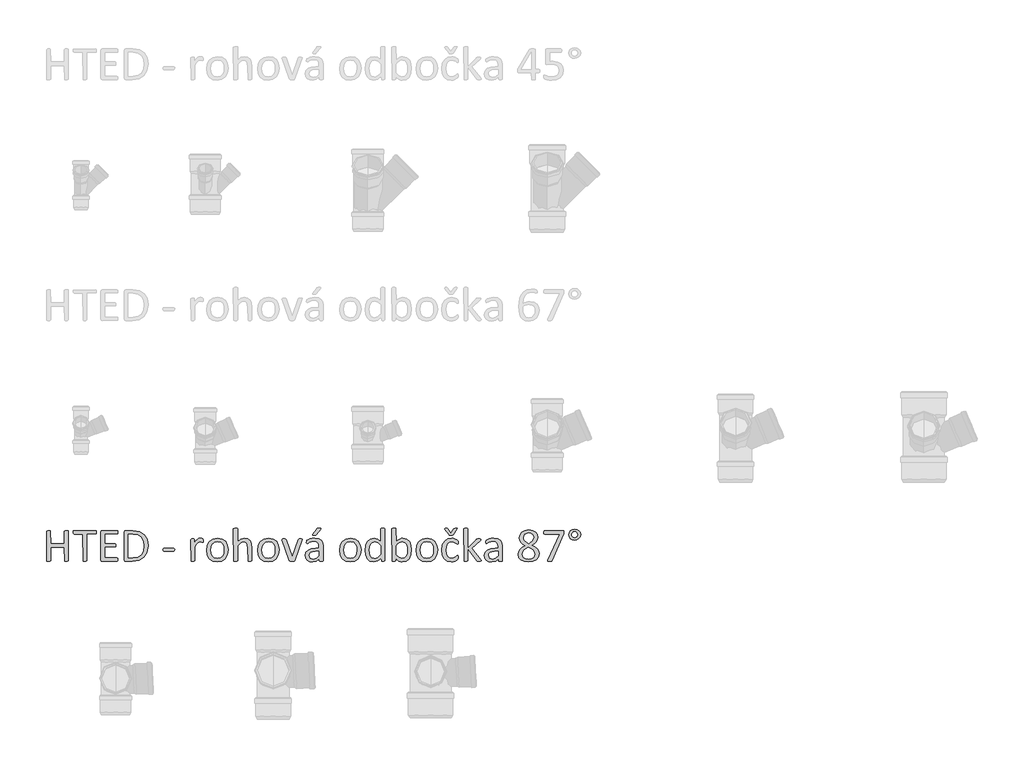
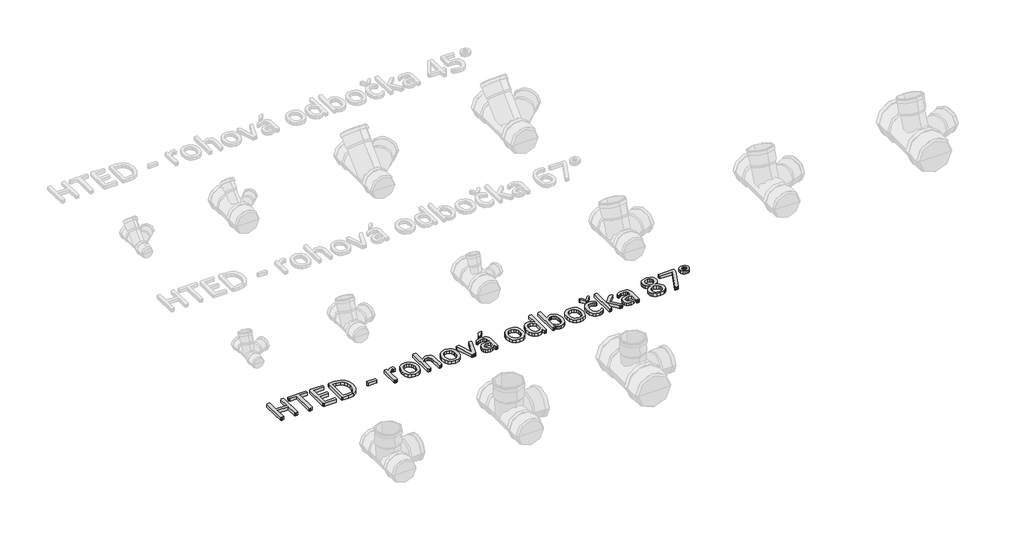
# One storey, part 13 of 26: 1 proxy.
"""IFC4 building model written with IfcOpenShell, lengths in millimetres."""

from ifc_helpers import new_model, si_unit, origin, origin_with_axes, place, context, project, spatial, polyline, outline, extrude, element, save

model = new_model("IFC4")

# Units and contexts
model_context = context("Model", 3, world=origin())
ifc_project = project(units=[si_unit("LENGTHUNIT", "METRE", prefix="MILLI")], contexts=[model_context])

# Site, building, storey
site = spatial("IfcSite", under=ifc_project)
building = spatial("IfcBuilding", under=site)
storey = spatial("IfcBuildingStorey", under=building, Name="Podlaží 1", Elevation=0.0)

# Proxy
placement = place(None, origin())
element("IfcBuildingElementProxy", 1, Name="120mm Arial", ObjectType="120mm Arial", at=placement, inside=storey, context=model_context, shape_type="SweptSolid", body=[
    extrude(outline(polyline([(-20465.0657483, 7048.0506997), (-20469.2817655, 7045.3184311), (-20473.1358927, 7045.0832026), (-20477.1166815, 7045.3184311), (-20479.5775327, 7045.8612659), (-20481.2784151, 7100.6694889), (-20534.5486061, 7100.6694889), (-20534.5486061, 7048.0145107), (-20538.7465288, 7045.3184311), (-20542.6549395, 7045.0832026), (-20546.5271613, 7045.3184311), (-20549.0603905, 7045.8793604), (-20550.7612729, 7162.5526591), (-20546.5271613, 7165.2849277), (-20542.6549395, 7165.5201562), (-20538.7465288, 7165.2849277), (-20536.2494886, 7164.7239984), (-20534.5486061, 7114.5660604), (-20481.2784151, 7114.5660604), (-20481.2784151, 7162.5526591), (-20477.1166815, 7165.2849277), (-20473.1358927, 7165.5201562), (-20469.2817655, 7165.2849277), (-20466.7666308, 7164.7239984), (-20465.0657483, 7048.0506997)])), origin_with_axes(), (0.0, 0.0, 1.0), 15.0),
    extrude(outline(polyline([(-20356.2092711, 7158.4633034), (-20356.390216, 7155.3329559), (-20356.9873343, 7153.1978056), (-20393.2667952, 7151.6235846), (-20393.2667952, 7048.0506997), (-20397.4647179, 7045.3184311), (-20401.3731287, 7045.0832026), (-20405.2453504, 7045.3184311), (-20407.7785796, 7045.8793604), (-20409.4794621, 7151.6235846), (-20443.3885442, 7151.6235846), (-20446.3017578, 7155.3329559), (-20446.5369862, 7158.4633034), (-20446.3017578, 7161.6660289), (-20445.686545, 7163.9097462), (-20359.3939021, 7165.5201562), (-20357.0054288, 7163.9097462), (-20356.390216, 7161.6660289), (-20356.2092711, 7158.4633034)])), origin_with_axes(), (0.0, 0.0, 1.0), 15.0),
    extrude(outline(polyline([(-20272.8298417, 7051.9952994), (-20273.0107867, 7048.9192354), (-20273.6621885, 7046.7298016), (-20274.7478581, 7045.463187), (-20334.0254212, 7045.0832026), (-20338.0785879, 7046.5307622), (-20339.9966043, 7051.5972206), (-20339.9966043, 7159.0061382), (-20338.0604934, 7164.0725966), (-20333.9530432, 7165.5201562), (-20276.0506617, 7165.5201562), (-20273.680283, 7163.8735572), (-20273.0650701, 7161.6841234), (-20272.8298417, 7158.4271144), (-20273.0650701, 7155.3691449), (-20273.680283, 7153.2159001), (-20323.7839374, 7151.6235846), (-20323.7839374, 7114.5660604), (-20282.9627585, 7114.5660604), (-20280.5742852, 7112.865178), (-20279.9590724, 7110.6757442), (-20279.7781275, 7107.3644517), (-20279.9590724, 7104.2702932), (-20280.5742852, 7102.1713319), (-20323.7839374, 7100.6694889), (-20323.7839374, 7058.9797742), (-20276.0868507, 7058.9797742), (-20273.6621885, 7057.3874587), (-20273.0107867, 7055.2342139), (-20272.8298417, 7051.9952994)])), origin_with_axes(), (0.0, 0.0, 1.0), 15.0),
    extrude(outline(polyline([(-20154.7089835, 7107.0749398), (-20158.7078667, 7079.7522536), (-20170.39691, 7060.3911447), (-20189.2513729, 7048.9011409), (-20215.8683739, 7045.0832026), (-20241.3816108, 7045.0832026), (-20245.452872, 7046.5307622), (-20247.3527939, 7051.5972206), (-20247.3527939, 7159.0061382), (-20245.452872, 7164.0725966), (-20241.3816108, 7165.5201562), (-20214.0951135, 7165.5201562), (-20187.6590574, 7161.4669895), (-20169.5464687, 7149.8322297), (-20158.4726383, 7131.4482235), (-20154.7089835, 7107.0749398)]), holes=[polyline([(-20170.9216503, 7106.3511601), (-20173.364407, 7124.3370873), (-20181.0002836, 7138.7403047), (-20194.1730754, 7148.2218197), (-20214.7103263, 7151.6235846), (-20231.140127, 7151.6235846), (-20231.140127, 7058.9797742), (-20214.5293814, 7058.9797742), (-20194.9330441, 7061.8387043), (-20181.6154964, 7070.578345), (-20173.5996354, 7085.3434523), (-20170.9216503, 7106.3511601)])]), origin_with_axes(), (0.0, 0.0, 1.0), 15.0),
    extrude(outline(polyline([(-20050.4846968, 7090.2832492), (-20051.335138, 7085.7234367), (-20053.8140837, 7084.4568221), (-20093.4048371, 7084.4568221), (-20095.9561607, 7085.7596256), (-20096.806602, 7090.2832492), (-20095.9561607, 7094.7706838), (-20093.4048371, 7096.0372984), (-20053.8140837, 7096.0372984), (-20050.7199252, 7092.9974233), (-20050.4846968, 7090.2832492)])), origin_with_axes(), (0.0, 0.0, 1.0), 15.0),
    extrude(outline(polyline([(-19939.3121243, 7126.1465367), (-19939.4025968, 7122.8533388), (-19939.7644866, 7120.7181885), (-19943.3110075, 7119.5058574), (-19945.6451973, 7120.3382041), (-19948.5584108, 7121.1343618), (-19952.0506482, 7121.5143462), (-19956.4657048, 7120.519149), (-19961.0074229, 7117.2621401), (-19965.9834088, 7111.254768), (-19971.7374579, 7102.0808594), (-19971.7374579, 7047.9059437), (-19975.8630026, 7045.2641476), (-19979.8799803, 7045.0832026), (-19983.8245801, 7045.2641476), (-19986.3216203, 7045.8069824), (-19987.9501247, 7130.2720814), (-19984.2226589, 7132.9500666), (-19980.5675711, 7133.0948225), (-19976.9848612, 7132.9500666), (-19974.777333, 7132.4072317), (-19973.2935844, 7118.2573373), (-19967.0328894, 7126.8341275), (-19961.4778797, 7132.0634363), (-19956.3028544, 7134.687138), (-19951.1097345, 7135.4109178), (-19948.4679384, 7135.2842563), (-19945.3556854, 7134.795705), (-19942.4243773, 7133.9814527), (-19940.5787389, 7133.0948225), (-19939.3483133, 7129.4035457), (-19939.3121243, 7126.1465367)])), origin_with_axes(), (0.0, 0.0, 1.0), 15.0),
    extrude(outline(polyline([(-19842.0361234, 7089.9937373), (-19844.7141085, 7071.0126129), (-19852.7299694, 7056.0665606), (-19866.0837062, 7046.2774393), (-19884.6667517, 7042.7671074), (-19902.580301, 7045.8612659), (-19915.3188249, 7054.8542295), (-19922.9185125, 7069.1850689), (-19925.4155527, 7088.2928548), (-19922.7737566, 7107.2739793), (-19914.8121791, 7122.201937), (-19901.5127259, 7131.9367749), (-19882.8934913, 7135.4109178), (-19864.9618475, 7132.3167593), (-19852.2233236, 7123.3237956), (-19844.587447, 7108.9929562), (-19842.0361234, 7089.9937373)]), holes=[polyline([(-19858.2487902, 7088.9080676), (-19859.4973103, 7101.4837411), (-19863.6047605, 7111.8699808), (-19871.3311095, 7118.9268335), (-19883.5087041, 7121.5143462), (-19895.0710859, 7119.1439675), (-19903.0326634, 7112.4490046), (-19907.6829484, 7102.2075209), (-19909.2028859, 7089.2699575), (-19907.9543658, 7076.6219061), (-19903.8107266, 7066.2718554), (-19896.0300941, 7059.2511916), (-19883.870594, 7056.6636789), (-19872.3444012, 7059.0340577), (-19864.3285402, 7065.6747371), (-19859.7144442, 7075.8800318), (-19858.2487902, 7088.9080676)])]), origin_with_axes(), (0.0, 0.0, 1.0), 15.0),
    extrude(outline(polyline([(-19749.392313, 7047.9421327), (-19753.5178576, 7045.2641476), (-19757.4624574, 7045.0832026), (-19761.4794351, 7045.2641476), (-19763.9221918, 7045.8069824), (-19765.6049798, 7096.2906213), (-19766.6725549, 7107.6539636), (-19769.7667135, 7115.0908008), (-19775.0322113, 7119.8677472), (-19782.5052374, 7121.5143462), (-19793.4885954, 7117.479274), (-19804.9785992, 7105.6273803), (-19804.9785992, 7047.9421327), (-19809.1041439, 7045.2641476), (-19813.1211216, 7045.0832026), (-19817.0657213, 7045.2641476), (-19819.5627615, 7045.8250769), (-19821.191266, 7171.8170401), (-19817.0657213, 7174.6035923), (-19813.1211216, 7174.7845372), (-19809.1041439, 7174.6035923), (-19806.6613872, 7174.0426629), (-19805.3766781, 7173.1017492), (-19804.9785992, 7121.7314801), (-19791.9505634, 7132.0453419), (-19778.7415826, 7135.4109178), (-19764.917389, 7132.5881767), (-19755.8520474, 7125.0427726), (-19750.894156, 7113.9870366), (-19749.392313, 7098.6790945), (-19749.392313, 7047.9421327)])), origin_with_axes(), (0.0, 0.0, 1.0), 15.0),
    extrude(outline(polyline([(-19642.851931, 7089.9937373), (-19645.5299161, 7071.0126129), (-19653.5457771, 7056.0665606), (-19666.8995138, 7046.2774393), (-19685.4825594, 7042.7671074), (-19703.3961087, 7045.8612659), (-19716.1346326, 7054.8542295), (-19723.7343202, 7069.1850689), (-19726.2313604, 7088.2928548), (-19723.5895642, 7107.2739793), (-19715.6279867, 7122.201937), (-19702.3285335, 7131.9367749), (-19683.7092989, 7135.4109178), (-19665.7776552, 7132.3167593), (-19653.0391312, 7123.3237956), (-19645.4032547, 7108.9929562), (-19642.851931, 7089.9937373)]), holes=[polyline([(-19659.0645978, 7088.9080676), (-19660.3131179, 7101.4837411), (-19664.4205681, 7111.8699808), (-19672.1469171, 7118.9268335), (-19684.3245118, 7121.5143462), (-19695.8868936, 7119.1439675), (-19703.848471, 7112.4490046), (-19708.498756, 7102.2075209), (-19710.0186935, 7089.2699575), (-19708.7701734, 7076.6219061), (-19704.6265343, 7066.2718554), (-19696.8459018, 7059.2511916), (-19684.6864016, 7056.6636789), (-19673.1602088, 7059.0340577), (-19665.1443479, 7065.6747371), (-19660.5302519, 7075.8800318), (-19659.0645978, 7088.9080676)])]), origin_with_axes(), (0.0, 0.0, 1.0), 15.0),
    extrude(outline(polyline([(-19553.4922713, 7131.502507), (-19581.9820524, 7048.3764006), (-19582.9591551, 7046.7298016), (-19584.7686046, 7045.7346044), (-19587.8265741, 7045.2279586), (-19592.4768591, 7045.0832026), (-19597.0909551, 7045.2641476), (-19600.1127357, 7045.8069824), (-19601.9221851, 7046.8202741), (-19602.9354768, 7048.3764006), (-19631.3076437, 7126.6169936), (-19631.904762, 7128.5169155), (-19628.3039576, 7133.00435), (-19624.7212478, 7133.0948225), (-19620.4147582, 7132.9500666), (-19617.917718, 7132.4434207), (-19615.8187566, 7130.1635145), (-19592.2597252, 7062.2729721), (-19568.3388038, 7130.1635145), (-19566.3665039, 7132.4434207), (-19563.9418417, 7132.9500666), (-19559.9067695, 7133.0948225), (-19556.3783431, 7133.00435), (-19553.4922713, 7131.502507)])), origin_with_axes(), (0.0, 0.0, 1.0), 15.0),
    extrude(outline(polyline([(-19496.9741186, 7171.4913392), (-19495.635126, 7173.0836547), (-19493.7713931, 7174.0607574), (-19491.0391245, 7174.6035923), (-19487.1307138, 7174.7845372), (-19482.7880351, 7174.4769308), (-19480.4719399, 7173.5903006), (-19480.7252628, 7170.6589925), (-19498.0235993, 7149.8503242), (-19499.4168753, 7148.4208591), (-19500.8463404, 7147.5704179), (-19502.9453017, 7147.1180555), (-19506.1661217, 7146.9913941), (-19509.4955086, 7147.2628115), (-19511.2325801, 7147.9865913), (-19510.8345012, 7150.8274268), (-19496.9741186, 7171.4913392)])), origin_with_axes(), (0.0, 0.0, 1.0), 15.0),
    extrude(outline(polyline([(-19471.4608818, 7047.8697547), (-19472.2570395, 7046.1869668), (-19474.4283788, 7045.35462), (-19478.4815455, 7045.0832026), (-19482.5889957, 7045.35462), (-19484.8146185, 7046.1869668), (-19485.5022093, 7047.8697547), (-19485.5022093, 7056.1932221), (-19497.6978984, 7046.5669512), (-19511.9563598, 7042.7671074), (-19523.9168205, 7044.4860843), (-19533.0183511, 7049.4620702), (-19538.8628727, 7057.4598367), (-19540.9437396, 7068.2441552), (-19538.066715, 7080.5122223), (-19529.8156256, 7089.1613906), (-19516.6609283, 7094.3183214), (-19499.1454579, 7096.0372984), (-19487.6735486, 7096.0372984), (-19487.6735486, 7102.9493951), (-19488.6868403, 7111.9966423), (-19491.9438492, 7118.5468492), (-19497.7521819, 7122.4914489), (-19506.5280116, 7123.8304415), (-19516.5704558, 7122.3828819), (-19524.3510884, 7119.198251), (-19529.9422871, 7116.01362), (-19533.271674, 7114.5660604), (-19536.1306041, 7118.0944868), (-19536.311549, 7120.7543775), (-19535.9858481, 7124.5542212), (-19534.3935327, 7127.2141119), (-19530.050854, 7129.928286), (-19522.9578123, 7132.6062712), (-19514.1819826, 7134.61476), (-19504.5738062, 7135.4109178), (-19489.1934861, 7133.3662399), (-19478.9339079, 7127.3950568), (-19473.2341422, 7117.6421245), (-19471.4608818, 7104.0350648), (-19471.4608818, 7047.8697547)]), holes=[polyline([(-19487.6735486, 7084.4568221), (-19500.5568285, 7084.4568221), (-19511.304958, 7083.3892469), (-19518.8865511, 7080.2408049), (-19523.3197022, 7075.2467245), (-19524.7310727, 7068.5336671), (-19520.677906, 7058.1836164), (-19509.3145637, 7054.3475837), (-19498.3131112, 7057.4055532), (-19487.6735486, 7066.7604067), (-19487.6735486, 7084.4568221)])]), origin_with_axes(), (0.0, 0.0, 1.0), 15.0),
    extrude(outline(polyline([(-19323.2307851, 7089.9937373), (-19325.9087703, 7071.0126129), (-19333.9246312, 7056.0665606), (-19347.2783679, 7046.2774393), (-19365.8614135, 7042.7671074), (-19383.7749628, 7045.8612659), (-19396.5134867, 7054.8542295), (-19404.1131743, 7069.1850689), (-19406.6102145, 7088.2928548), (-19403.9684183, 7107.2739793), (-19396.0068409, 7122.201937), (-19382.7073876, 7131.9367749), (-19364.0881531, 7135.4109178), (-19346.1565093, 7132.3167593), (-19333.4179854, 7123.3237956), (-19325.7821088, 7108.9929562), (-19323.2307851, 7089.9937373)]), holes=[polyline([(-19339.4434519, 7088.9080676), (-19340.691972, 7101.4837411), (-19344.7994222, 7111.8699808), (-19352.5257713, 7118.9268335), (-19364.7033659, 7121.5143462), (-19376.2657477, 7119.1439675), (-19384.2273251, 7112.4490046), (-19388.8776101, 7102.2075209), (-19390.3975477, 7089.2699575), (-19389.1490276, 7076.6219061), (-19385.0053884, 7066.2718554), (-19377.2247559, 7059.2511916), (-19365.0652558, 7056.6636789), (-19353.5390629, 7059.0340577), (-19345.523202, 7065.6747371), (-19340.909106, 7075.8800318), (-19339.4434519, 7088.9080676)])]), origin_with_axes(), (0.0, 0.0, 1.0), 15.0),
    extrude(outline(polyline([(-19230.9126756, 7047.9783217), (-19234.296346, 7045.2641476), (-19237.6076385, 7045.0832026), (-19241.0455924, 7045.2641476), (-19243.2893097, 7045.7346044), (-19244.9540031, 7058.0388605), (-19258.3982123, 7046.8021796), (-19273.651871, 7042.7671074), (-19289.06838, 7046.3679117), (-19299.4003362, 7056.1027496), (-19305.1905744, 7070.542156), (-19307.0181183, 7088.0033429), (-19304.738212, 7107.6358691), (-19298.0070602, 7122.5819214), (-19286.9694187, 7132.0815308), (-19271.7338546, 7135.4109178), (-19258.5791573, 7132.1720033), (-19246.7996415, 7122.6723938), (-19246.7996415, 7171.7808512), (-19245.1349481, 7173.9883794), (-19242.6379079, 7174.5493088), (-19238.8018751, 7174.7845372), (-19234.7848974, 7174.5493088), (-19232.3421407, 7173.9883794), (-19231.0212426, 7173.0655602), (-19230.9126756, 7047.9783217)]), holes=[polyline([(-19246.7996415, 7106.1702151), (-19258.4163068, 7117.587841), (-19270.1053501, 7121.5143462), (-19279.695432, 7118.7639831), (-19286.100883, 7111.5080909), (-19289.6835928, 7101.3027962), (-19290.8054515, 7089.7404144), (-19289.8645378, 7077.5085363), (-19286.5894343, 7066.9051627), (-19280.4011173, 7059.4683255), (-19270.7205629, 7056.6636789), (-19265.0388917, 7057.4779312), (-19259.4295985, 7060.1740108), (-19253.4403209, 7065.0595243), (-19246.7996415, 7072.4782669), (-19246.7996415, 7106.1702151)])]), origin_with_axes(), (0.0, 0.0, 1.0), 15.0),
    extrude(outline(polyline([(-19126.362688, 7090.1746822), (-19128.6787833, 7070.4516835), (-19135.5004076, 7055.5056313), (-19146.5742381, 7046.0422108), (-19161.6107628, 7042.7671074), (-19168.8485604, 7043.5632651), (-19175.3625784, 7046.1507778), (-19181.7318403, 7050.6563069), (-19188.4629922, 7057.2065138), (-19188.4629922, 7047.7611878), (-19192.3533084, 7045.2641476), (-19195.7369789, 7045.0832026), (-19199.0663658, 7045.2641476), (-19201.3281776, 7045.7707934), (-19202.7938316, 7171.8170401), (-19198.6682869, 7174.6035923), (-19194.7236872, 7174.7845372), (-19190.7067095, 7174.6035923), (-19188.2639527, 7174.0426629), (-19186.9792437, 7173.1017492), (-19186.5811648, 7121.5505352), (-19179.5424065, 7128.0102696), (-19172.8655382, 7132.2805703), (-19166.3334257, 7134.6690435), (-19159.4394235, 7135.4109178), (-19144.2219538, 7131.7558299), (-19133.9442811, 7121.9667086), (-19128.1721374, 7107.5815857), (-19126.362688, 7090.1746822)]), holes=[polyline([(-19142.5753548, 7088.4014218), (-19143.5162685, 7100.7237724), (-19146.8094665, 7111.3090515), (-19153.015878, 7118.7096996), (-19162.6602434, 7121.5143462), (-19168.3057256, 7120.700094), (-19173.9693023, 7117.9859198), (-19179.9585799, 7113.1185009), (-19186.5811648, 7105.6273803), (-19186.5811648, 7072.00781), (-19174.8921215, 7060.5901842), (-19163.2754562, 7056.6636789), (-19153.7396578, 7059.4321366), (-19147.2980178, 7066.7423122), (-19143.6972135, 7076.947607), (-19142.5753548, 7088.4014218)])]), origin_with_axes(), (0.0, 0.0, 1.0), 15.0),
    extrude(outline(polyline([(-19024.4544966, 7089.9937373), (-19027.1324817, 7071.0126129), (-19035.1483427, 7056.0665606), (-19048.5020794, 7046.2774393), (-19067.085125, 7042.7671074), (-19084.9986742, 7045.8612659), (-19097.7371982, 7054.8542295), (-19105.3368857, 7069.1850689), (-19107.8339259, 7088.2928548), (-19105.1921298, 7107.2739793), (-19097.2305523, 7122.201937), (-19083.9310991, 7131.9367749), (-19065.3118645, 7135.4109178), (-19047.3802208, 7132.3167593), (-19034.6416968, 7123.3237956), (-19027.0058203, 7108.9929562), (-19024.4544966, 7089.9937373)]), holes=[polyline([(-19040.6671634, 7088.9080676), (-19041.9156835, 7101.4837411), (-19046.0231337, 7111.8699808), (-19053.7494827, 7118.9268335), (-19065.9270773, 7121.5143462), (-19077.4894591, 7119.1439675), (-19085.4510366, 7112.4490046), (-19090.1013216, 7102.2075209), (-19091.6212591, 7089.2699575), (-19090.372739, 7076.6219061), (-19086.2290998, 7066.2718554), (-19078.4484673, 7059.2511916), (-19066.2889672, 7056.6636789), (-19054.7627744, 7059.0340577), (-19046.7469135, 7065.6747371), (-19042.1328174, 7075.8800318), (-19040.6671634, 7088.9080676)])]), origin_with_axes(), (0.0, 0.0, 1.0), 15.0),
    extrude(outline(polyline([(-18943.3911625, 7061.7301373), (-18943.4816349, 7059.1969081), (-18943.8073358, 7057.3874587), (-18945.7977302, 7053.7504654), (-18949.6880465, 7050.222039), (-18955.858269, 7046.4764787), (-18963.2951061, 7043.7984935), (-18971.6185735, 7042.7671074), (-18987.3245944, 7045.7707934), (-18998.7784093, 7054.5466231), (-19005.8171675, 7068.6965176), (-19008.2418298, 7088.0395319), (-19005.2743327, 7109.4815076), (-18997.1499048, 7124.1561424), (-18985.0084992, 7132.6424602), (-18969.881502, 7135.4109178), (-18962.2456255, 7134.5966655), (-18955.4420956, 7132.4615152), (-18949.9051804, 7129.4216402), (-18946.3948485, 7126.4722376), (-18944.8930055, 7124.5361267), (-18944.2054147, 7122.9980947), (-18943.8435248, 7121.0981728), (-18943.7530524, 7118.4382822), (-18944.5673046, 7113.6251467), (-18946.5396045, 7112.2499652), (-18949.669952, 7113.6975247), (-18954.139292, 7116.8821557), (-18960.7075934, 7120.0667867), (-18969.772935, 7121.5143462), (-18979.2951626, 7119.4153849), (-18986.2932083, 7113.1185009), (-18990.5951743, 7102.8227337), (-18992.0291629, 7088.7271227), (-18990.5454144, 7074.7219842), (-18986.1665468, 7064.6614454), (-18979.0554106, 7058.6359788), (-18969.4110452, 7056.6636789), (-18960.3818926, 7058.4912229), (-18953.6507407, 7062.5082006), (-18948.8556997, 7066.4708948), (-18945.8158247, 7068.2441552), (-18943.5178239, 7064.6795399), (-18943.3911625, 7061.7301373)])), origin_with_axes(), (0.0, 0.0, 1.0), 15.0),
    extrude(outline(polyline([(-18960.7618769, 7172.1065521), (-18959.6038293, 7173.3912611), (-18956.3106314, 7174.6578757), (-18953.4155123, 7174.7845372), (-18949.633763, 7174.4769308), (-18947.8243136, 7173.5903006), (-18949.1814006, 7169.7904568), (-18964.1274529, 7149.3074893), (-18965.303595, 7148.1494417), (-18966.8959105, 7147.4799454), (-18969.2120057, 7147.1180555), (-18972.5594872, 7146.9913941), (-18975.7079292, 7147.1180555), (-18977.9335519, 7147.5161344), (-18979.471584, 7148.2399142), (-18995.5033058, 7169.7904568), (-18996.8965819, 7172.0160796), (-18994.99666, 7174.4769308), (-18991.2330052, 7174.7845372), (-18988.1207522, 7174.6578757), (-18986.2389248, 7174.2055134), (-18983.9228295, 7172.1065521), (-18972.3423532, 7155.9300742), (-18960.7618769, 7172.1065521)])), origin_with_axes(), (0.0, 0.0, 1.0), 15.0),
    extrude(outline(polyline([(-18853.0634473, 7048.0145107), (-18857.1347085, 7045.2641476), (-18861.1335918, 7045.0832026), (-18865.2591364, 7045.2279586), (-18868.0094996, 7045.6803209), (-18869.818949, 7046.5850457), (-18871.0855636, 7048.0145107), (-18906.3336383, 7093.5764471), (-18906.3336383, 7047.9059437), (-18910.459183, 7045.2641476), (-18914.4761607, 7045.0832026), (-18918.4207605, 7045.2641476), (-18920.9178007, 7045.8250769), (-18922.5463051, 7171.8170401), (-18918.4207605, 7174.6035923), (-18914.4761607, 7174.7845372), (-18910.459183, 7174.6035923), (-18908.0164263, 7174.0426629), (-18906.7317172, 7173.1017492), (-18906.3336383, 7095.6754085), (-18874.1254386, 7129.9101915), (-18872.5150286, 7131.4120346), (-18870.4884453, 7132.4072317), (-18867.7018932, 7132.9500666), (-18863.8115769, 7133.0948225), (-18859.8307882, 7132.9500666), (-18857.2432755, 7132.4977042), (-18855.8138105, 7131.683452), (-18856.0128499, 7128.1550256), (-18858.1299057, 7125.6037019), (-18890.1209715, 7095.7839754), (-18855.3433536, 7052.3210003), (-18853.5881877, 7049.8058656), (-18853.0634473, 7048.0145107)])), origin_with_axes(), (0.0, 0.0, 1.0), 15.0),
    extrude(outline(polyline([(-18772.0001132, 7047.8697547), (-18772.796271, 7046.1869668), (-18774.9676103, 7045.35462), (-18779.020777, 7045.0832026), (-18783.1282272, 7045.35462), (-18785.35385, 7046.1869668), (-18786.0414408, 7047.8697547), (-18786.0414408, 7056.1932221), (-18798.2371299, 7046.5669512), (-18812.4955913, 7042.7671074), (-18824.456052, 7044.4860843), (-18833.5575826, 7049.4620702), (-18839.4021042, 7057.4598367), (-18841.482971, 7068.2441552), (-18838.6059465, 7080.5122223), (-18830.3548571, 7089.1613906), (-18817.2001598, 7094.3183214), (-18799.6846894, 7096.0372984), (-18788.2127801, 7096.0372984), (-18788.2127801, 7102.9493951), (-18789.2260717, 7111.9966423), (-18792.4830807, 7118.5468492), (-18798.2914133, 7122.4914489), (-18807.067243, 7123.8304415), (-18817.1096873, 7122.3828819), (-18824.8903198, 7119.198251), (-18830.4815186, 7116.01362), (-18833.8109055, 7114.5660604), (-18836.6698356, 7118.0944868), (-18836.8507805, 7120.7543775), (-18836.5250796, 7124.5542212), (-18834.9327641, 7127.2141119), (-18830.5900855, 7129.928286), (-18823.4970438, 7132.6062712), (-18814.7212141, 7134.61476), (-18805.1130377, 7135.4109178), (-18789.7327176, 7133.3662399), (-18779.4731394, 7127.3950568), (-18773.7733737, 7117.6421245), (-18772.0001132, 7104.0350648), (-18772.0001132, 7047.8697547)]), holes=[polyline([(-18788.2127801, 7084.4568221), (-18801.0960599, 7084.4568221), (-18811.8441895, 7083.3892469), (-18819.4257826, 7080.2408049), (-18823.8589337, 7075.2467245), (-18825.2703042, 7068.5336671), (-18821.2171375, 7058.1836164), (-18809.8537951, 7054.3475837), (-18798.8523427, 7057.4055532), (-18788.2127801, 7066.7604067), (-18788.2127801, 7084.4568221)])]), origin_with_axes(), (0.0, 0.0, 1.0), 15.0),
    extrude(outline(polyline([(-18628.4022071, 7075.7352758), (-18631.1887592, 7061.6939483), (-18639.2227147, 7051.3077086), (-18652.196467, 7044.9203522), (-18669.8747879, 7042.7671074), (-18686.5036281, 7044.7394072), (-18698.9526401, 7050.5658344), (-18706.7694616, 7060.0473494), (-18709.4655412, 7072.9125347), (-18707.5837138, 7083.4254359), (-18702.1915545, 7092.2555491), (-18693.5423863, 7099.8190476), (-18681.925721, 7106.532105), (-18691.6786534, 7112.6661385), (-18698.8440731, 7119.7048968), (-18703.3134132, 7127.8293247), (-18704.8333507, 7137.2203672), (-18702.5896334, 7149.1989224), (-18695.7861036, 7158.9156658), (-18684.1875328, 7165.4477782), (-18667.7758265, 7167.8362514), (-18652.196467, 7165.6287231), (-18641.357865, 7159.621351), (-18635.060981, 7150.6464819), (-18633.0343976, 7139.5726514), (-18634.5543352, 7130.3806484), (-18639.0055807, 7122.0209921), (-18646.2252839, 7114.6384384), (-18656.0144053, 7108.1967985), (-18644.2167951, 7101.4656466), (-18635.5495323, 7093.9926205), (-18630.229751, 7085.5424917), (-18628.4022071, 7075.7352758)]), holes=[polyline([(-18649.2470645, 7138.6317377), (-18650.549868, 7145.9600079), (-18654.3497118, 7151.5512066), (-18660.5561233, 7155.0615385), (-18669.0062521, 7156.2557751), (-18683.6627925, 7151.5331121), (-18688.6206839, 7138.6317377), (-18687.4083528, 7131.683452), (-18683.644698, 7125.5675129), (-18677.203058, 7119.9220307), (-18667.9567715, 7114.2041706), (-18654.0782944, 7125.2599065), (-18649.2470645, 7138.6317377)]), polyline([(-18644.6148739, 7073.4553696), (-18646.1890949, 7081.453136), (-18650.9660414, 7088.1661934), (-18658.9457134, 7094.2278489), (-18670.0557328, 7100.307599), (-18680.2972165, 7094.3545104), (-18687.5350142, 7088.2023824), (-18691.8053149, 7081.5436085), (-18693.2528744, 7073.8172595), (-18691.7103188, 7065.5706937), (-18687.0826519, 7059.4321366), (-18679.3879682, 7055.6187219), (-18668.6443623, 7054.3475837), (-18658.2219336, 7055.6322928), (-18650.694624, 7059.48642), (-18646.1348115, 7065.5480756), (-18644.6148739, 7073.4553696)])]), origin_with_axes(), (0.0, 0.0, 1.0), 15.0),
    extrude(outline(polyline([(-18531.1262062, 7158.7166263), (-18531.2709622, 7155.7129403), (-18531.6509465, 7153.1254276), (-18532.3023483, 7150.7369544), (-18533.2613565, 7148.2941977), (-18576.7605206, 7048.7021015), (-18577.9185682, 7046.8926521), (-18579.6918287, 7045.7888879), (-18582.4421918, 7045.2279586), (-18586.5315475, 7045.0832026), (-18591.4894389, 7045.35462), (-18594.0588571, 7046.2412503), (-18594.7645424, 7047.7249988), (-18594.0950461, 7049.8239601), (-18548.3883537, 7151.6235846), (-18606.3269242, 7151.6235846), (-18608.9868148, 7153.469223), (-18609.873445, 7158.6080594), (-18609.6382166, 7161.6660289), (-18608.9325313, 7163.8192737), (-18607.8106727, 7165.1039828), (-18535.9755306, 7165.5201562), (-18533.6956244, 7165.2487387), (-18532.1937814, 7164.1449746), (-18531.3976236, 7162.0279188), (-18531.1262062, 7158.7166263)])), origin_with_axes(), (0.0, 0.0, 1.0), 15.0),
    extrude(outline(polyline([(-18466.2755389, 7149.6693792), (-18468.0307049, 7141.4001954), (-18472.9705018, 7134.61476), (-18480.4616224, 7130.073042), (-18489.7983814, 7128.462632), (-18498.9903845, 7129.9463805), (-18506.1558042, 7134.1262087), (-18510.8965617, 7140.5859431), (-18512.5974441, 7148.9455995), (-18510.7879947, 7157.4500117), (-18505.8120088, 7164.1449746), (-18498.3751717, 7168.5419367), (-18489.0746016, 7170.1523467), (-18479.9368821, 7168.6324092), (-18472.7171789, 7164.452581), (-18467.9764214, 7158.0290355), (-18466.2755389, 7149.6693792)]), holes=[polyline([(-18477.8560152, 7149.3436783), (-18478.7245509, 7153.9396799), (-18481.1492132, 7157.6128622), (-18484.8585845, 7160.0194299), (-18489.5450585, 7160.8879656), (-18494.068682, 7160.0194299), (-18497.7237699, 7157.6128622), (-18500.1484321, 7153.9939633), (-18501.0169678, 7149.5246233), (-18500.1484321, 7144.7114878), (-18497.6694864, 7141.0021165), (-18493.8696426, 7138.5955488), (-18489.1469796, 7137.727013), (-18484.7138285, 7138.6317377), (-18481.1130242, 7141.1287779), (-18478.7245509, 7144.8019603), (-18477.8560152, 7149.3436783)])]), origin_with_axes(), (0.0, 0.0, 1.0), 15.0),
])

save(model, "model.ifc")
